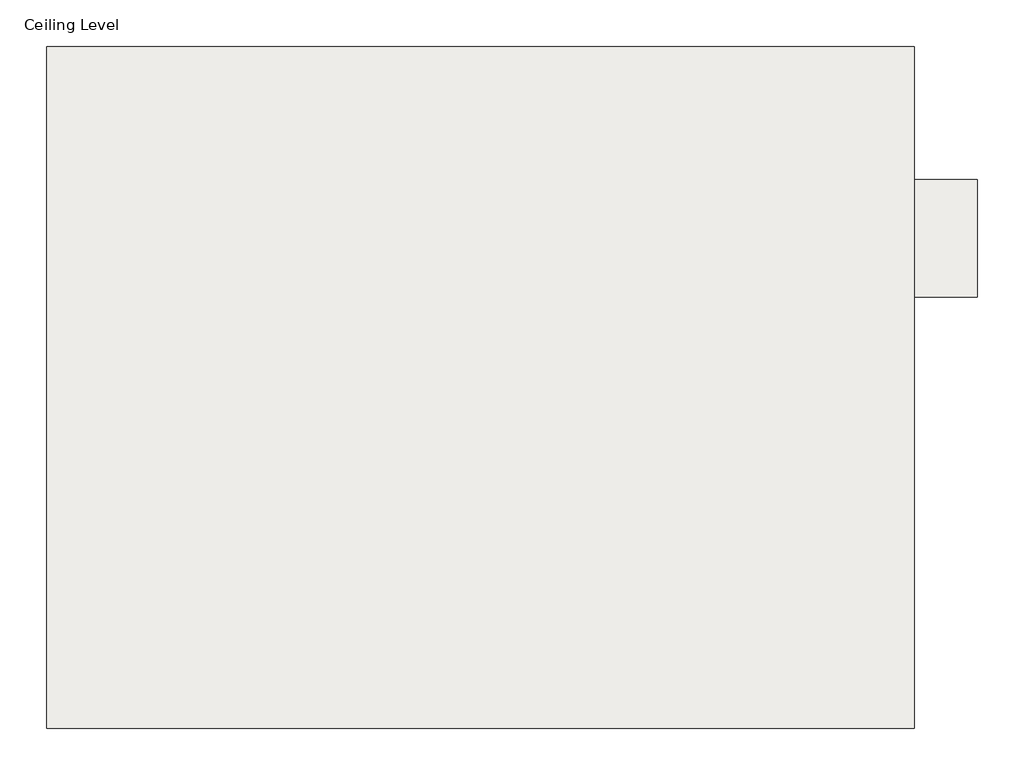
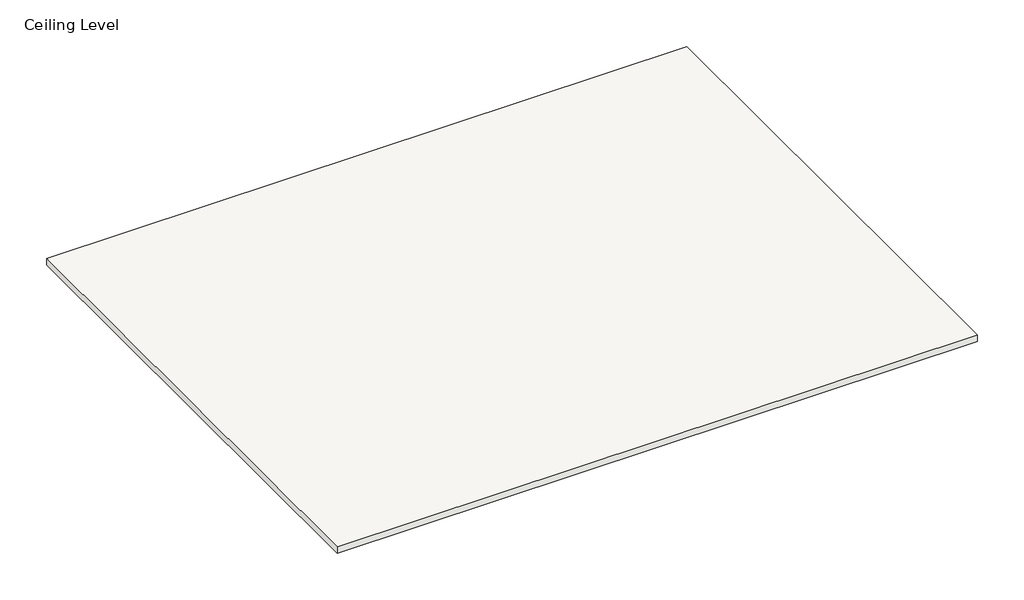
# One storey: 2 coverings.
"""IFC4 building model written with IfcOpenShell, lengths in millimetres."""

from ifc_helpers import new_model, si_unit, frame, origin, place, context, project, spatial, polyline, outline, extrude, element, save

model = new_model("IFC4")

# Units and contexts
model_context = context("Model", 3, world=origin())
ifc_project = project(units=[si_unit("LENGTHUNIT", "METRE", prefix="MILLI")], contexts=[model_context])

# Site, building, storey
site = spatial("IfcSite", under=ifc_project)
building = spatial("IfcBuilding", under=site)
storey = spatial("IfcBuildingStorey", under=building, Name="Ceiling Level", Elevation=0.0)

# Coverings
placement = place(None, origin())
element("IfcCovering", 1, ObjectType="Rockfon Sonar Activity B (white) 600 x 600 x 40 mm", at=placement, inside=storey, context=model_context, shape_type="SweptSolid", body=[
    extrude(outline(polyline([(-7000.9781072, 8795.7122432), (-7000.9781072, 5895.7122432), (-10690.9781072, 5895.7122432), (-10690.9781072, 8795.7122432), (-7000.9781072, 8795.7122432)])), frame((0.0, 0.0, 1.0), z_axis=(0.0, 0.0, 1.0), x_axis=(1.0, 0.0, 0.0)), (0.0, 0.0, 1.0), 40.0),
])
element("IfcCovering", 2, ObjectType="Rockfon Sonar Activity B (white) 1200 x 600 x 40 mm", at=placement, inside=storey, context=model_context, shape_type="SweptSolid", body=[
    extrude(outline(polyline([(-6733.0033126, 8230.1232506), (-6733.0033126, 7730.1232506), (-7133.0033126, 7730.1232506), (-7133.0033126, 8230.1232506), (-6733.0033126, 8230.1232506)])), frame((0.0, 0.0, -485.5782246), z_axis=(0.0, 0.0, 1.0), x_axis=(1.0, 0.0, 0.0)), (0.0, 0.0, 1.0), 40.0),
])

save(model, "model.ifc")
